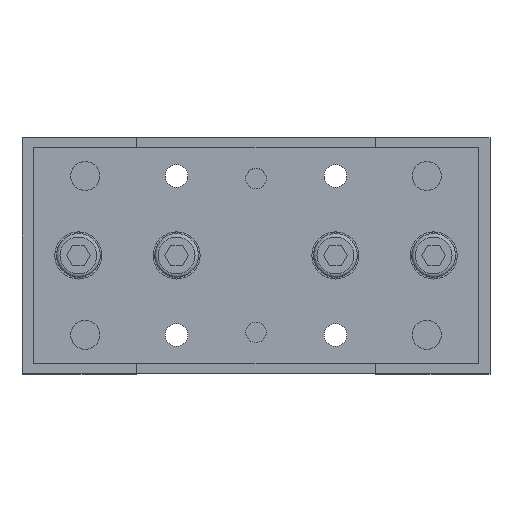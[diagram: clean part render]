
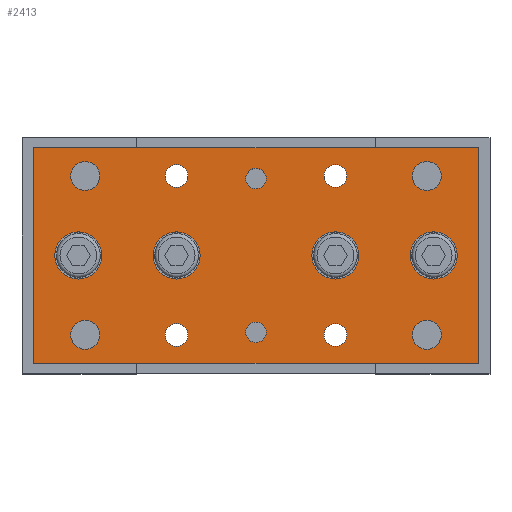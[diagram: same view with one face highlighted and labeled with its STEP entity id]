
A CAD part, top view. The second image highlights one B-rep face of the part: STEP entity #2413.
In plain terms, the highlighted planar face has unit normal (0, 0, 1) as drawn and (-1, 0, 0) by its records, which use the part's own axes.
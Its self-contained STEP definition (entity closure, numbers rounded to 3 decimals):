
#188=LINE('',#4514,#336);
#192=LINE('',#4523,#340);
#195=LINE('',#4529,#343);
#198=LINE('',#4535,#346);
#336=VECTOR('',#3797,1000.);
#340=VECTOR('',#3803,1000.);
#343=VECTOR('',#3808,1000.);
#346=VECTOR('',#3813,1000.);
#692=ORIENTED_EDGE('',*,*,#1124,.T.);
#693=ORIENTED_EDGE('',*,*,#1125,.T.);
#694=ORIENTED_EDGE('',*,*,#1126,.T.);
#695=ORIENTED_EDGE('',*,*,#1127,.T.);
#696=ORIENTED_EDGE('',*,*,#1128,.T.);
#697=ORIENTED_EDGE('',*,*,#1129,.T.);
#698=ORIENTED_EDGE('',*,*,#1130,.T.);
#699=ORIENTED_EDGE('',*,*,#1131,.T.);
#700=ORIENTED_EDGE('',*,*,#1132,.T.);
#701=ORIENTED_EDGE('',*,*,#1133,.T.);
#702=ORIENTED_EDGE('',*,*,#1134,.T.);
#703=ORIENTED_EDGE('',*,*,#1135,.T.);
#704=ORIENTED_EDGE('',*,*,#1136,.T.);
#705=ORIENTED_EDGE('',*,*,#1137,.T.);
#706=ORIENTED_EDGE('',*,*,#1101,.F.);
#707=ORIENTED_EDGE('',*,*,#1111,.F.);
#708=ORIENTED_EDGE('',*,*,#1108,.F.);
#709=ORIENTED_EDGE('',*,*,#1105,.F.);
#1101=EDGE_CURVE('',#1380,#1381,#188,.T.);
#1105=EDGE_CURVE('',#1381,#1384,#192,.T.);
#1108=EDGE_CURVE('',#1384,#1386,#195,.T.);
#1111=EDGE_CURVE('',#1386,#1380,#198,.T.);
#1124=EDGE_CURVE('',#1399,#1399,#1578,.T.);
#1125=EDGE_CURVE('',#1400,#1400,#1579,.T.);
#1126=EDGE_CURVE('',#1401,#1401,#1580,.T.);
#1127=EDGE_CURVE('',#1402,#1402,#1581,.T.);
#1128=EDGE_CURVE('',#1403,#1403,#1582,.T.);
#1129=EDGE_CURVE('',#1404,#1404,#1583,.T.);
#1130=EDGE_CURVE('',#1405,#1405,#1584,.T.);
#1131=EDGE_CURVE('',#1406,#1406,#1585,.T.);
#1132=EDGE_CURVE('',#1407,#1407,#1586,.T.);
#1133=EDGE_CURVE('',#1408,#1408,#1587,.T.);
#1134=EDGE_CURVE('',#1409,#1409,#1588,.T.);
#1135=EDGE_CURVE('',#1410,#1410,#1589,.T.);
#1136=EDGE_CURVE('',#1411,#1411,#1590,.T.);
#1137=EDGE_CURVE('',#1412,#1412,#1591,.T.);
#1380=VERTEX_POINT('',#4515);
#1381=VERTEX_POINT('',#4516);
#1384=VERTEX_POINT('',#4524);
#1386=VERTEX_POINT('',#4530);
#1399=VERTEX_POINT('',#4562);
#1400=VERTEX_POINT('',#4564);
#1401=VERTEX_POINT('',#4566);
#1402=VERTEX_POINT('',#4568);
#1403=VERTEX_POINT('',#4570);
#1404=VERTEX_POINT('',#4572);
#1405=VERTEX_POINT('',#4574);
#1406=VERTEX_POINT('',#4576);
#1407=VERTEX_POINT('',#4578);
#1408=VERTEX_POINT('',#4580);
#1409=VERTEX_POINT('',#4582);
#1410=VERTEX_POINT('',#4584);
#1411=VERTEX_POINT('',#4586);
#1412=VERTEX_POINT('',#4588);
#1578=CIRCLE('',#3322,6.9);
#1579=CIRCLE('',#3323,6.9);
#1580=CIRCLE('',#3324,6.9);
#1581=CIRCLE('',#3325,6.9);
#1582=CIRCLE('',#3326,4.25);
#1583=CIRCLE('',#3327,4.25);
#1584=CIRCLE('',#3328,4.25);
#1585=CIRCLE('',#3329,4.25);
#1586=CIRCLE('',#3330,3.);
#1587=CIRCLE('',#3331,3.);
#1588=CIRCLE('',#3332,3.324);
#1589=CIRCLE('',#3333,3.324);
#1590=CIRCLE('',#3334,3.324);
#1591=CIRCLE('',#3335,3.324);
#1787=EDGE_LOOP('',(#692));
#1788=EDGE_LOOP('',(#693));
#1789=EDGE_LOOP('',(#694));
#1790=EDGE_LOOP('',(#695));
#1791=EDGE_LOOP('',(#696));
#1792=EDGE_LOOP('',(#697));
#1793=EDGE_LOOP('',(#698));
#1794=EDGE_LOOP('',(#699));
#1795=EDGE_LOOP('',(#700));
#1796=EDGE_LOOP('',(#701));
#1797=EDGE_LOOP('',(#702));
#1798=EDGE_LOOP('',(#703));
#1799=EDGE_LOOP('',(#704));
#1800=EDGE_LOOP('',(#705));
#1801=EDGE_LOOP('',(#706,#707,#708,#709));
#2111=FACE_BOUND('',#1787,.T.);
#2112=FACE_BOUND('',#1788,.T.);
#2113=FACE_BOUND('',#1789,.T.);
#2114=FACE_BOUND('',#1790,.T.);
#2115=FACE_BOUND('',#1791,.T.);
#2116=FACE_BOUND('',#1792,.T.);
#2117=FACE_BOUND('',#1793,.T.);
#2118=FACE_BOUND('',#1794,.T.);
#2119=FACE_BOUND('',#1795,.T.);
#2120=FACE_BOUND('',#1796,.T.);
#2121=FACE_BOUND('',#1797,.T.);
#2122=FACE_BOUND('',#1798,.T.);
#2123=FACE_BOUND('',#1799,.T.);
#2124=FACE_BOUND('',#1800,.T.);
#2125=FACE_BOUND('',#1801,.T.);
#2283=PLANE('',#3321);
#2413=ADVANCED_FACE('',(#2111,#2112,#2113,#2114,#2115,#2116,#2117,#2118,
#2119,#2120,#2121,#2122,#2123,#2124,#2125),#2283,.F.);
#3321=AXIS2_PLACEMENT_3D('',#4560,#3839,#3840);
#3322=AXIS2_PLACEMENT_3D('',#4561,#3841,#3842);
#3323=AXIS2_PLACEMENT_3D('',#4563,#3843,#3844);
#3324=AXIS2_PLACEMENT_3D('',#4565,#3845,#3846);
#3325=AXIS2_PLACEMENT_3D('',#4567,#3847,#3848);
#3326=AXIS2_PLACEMENT_3D('',#4569,#3849,#3850);
#3327=AXIS2_PLACEMENT_3D('',#4571,#3851,#3852);
#3328=AXIS2_PLACEMENT_3D('',#4573,#3853,#3854);
#3329=AXIS2_PLACEMENT_3D('',#4575,#3855,#3856);
#3330=AXIS2_PLACEMENT_3D('',#4577,#3857,#3858);
#3331=AXIS2_PLACEMENT_3D('',#4579,#3859,#3860);
#3332=AXIS2_PLACEMENT_3D('',#4581,#3861,#3862);
#3333=AXIS2_PLACEMENT_3D('',#4583,#3863,#3864);
#3334=AXIS2_PLACEMENT_3D('',#4585,#3865,#3866);
#3335=AXIS2_PLACEMENT_3D('',#4587,#3867,#3868);
#3797=DIRECTION('',(0.,-1.,0.));
#3803=DIRECTION('',(0.,0.,-1.));
#3808=DIRECTION('',(0.,1.,0.));
#3813=DIRECTION('',(0.,0.,1.));
#3839=DIRECTION('',(1.,0.,0.));
#3840=DIRECTION('',(0.,0.,-1.));
#3841=DIRECTION('',(1.,0.,0.));
#3842=DIRECTION('',(0.,0.,-1.));
#3843=DIRECTION('',(1.,0.,0.));
#3844=DIRECTION('',(0.,0.,-1.));
#3845=DIRECTION('',(1.,0.,0.));
#3846=DIRECTION('',(0.,0.,-1.));
#3847=DIRECTION('',(1.,0.,0.));
#3848=DIRECTION('',(0.,0.,-1.));
#3849=DIRECTION('',(1.,0.,0.));
#3850=DIRECTION('',(0.,0.,-1.));
#3851=DIRECTION('',(1.,0.,0.));
#3852=DIRECTION('',(0.,0.,-1.));
#3853=DIRECTION('',(1.,0.,0.));
#3854=DIRECTION('',(0.,0.,-1.));
#3855=DIRECTION('',(1.,0.,0.));
#3856=DIRECTION('',(0.,0.,-1.));
#3857=DIRECTION('',(1.,0.,0.));
#3858=DIRECTION('',(0.,0.,-1.));
#3859=DIRECTION('',(1.,0.,0.));
#3860=DIRECTION('',(0.,0.,-1.));
#3861=DIRECTION('',(1.,0.,0.));
#3862=DIRECTION('',(0.,0.,-1.));
#3863=DIRECTION('',(1.,0.,0.));
#3864=DIRECTION('',(0.,0.,-1.));
#3865=DIRECTION('',(1.,0.,0.));
#3866=DIRECTION('',(0.,0.,-1.));
#3867=DIRECTION('',(1.,0.,0.));
#3868=DIRECTION('',(0.,0.,-1.));
#4514=CARTESIAN_POINT('',(0.,31.5,65.));
#4515=CARTESIAN_POINT('',(0.,31.5,65.));
#4516=CARTESIAN_POINT('',(0.,-31.5,65.));
#4523=CARTESIAN_POINT('',(0.,-31.5,65.));
#4524=CARTESIAN_POINT('',(0.,-31.5,-65.));
#4529=CARTESIAN_POINT('',(0.,-31.5,-65.));
#4530=CARTESIAN_POINT('',(0.,31.5,-65.));
#4535=CARTESIAN_POINT('',(0.,31.5,-65.));
#4560=CARTESIAN_POINT('',(0.,0.,0.));
#4561=CARTESIAN_POINT('',(0.,0.,23.25));
#4562=CARTESIAN_POINT('',(0.,0.,16.35));
#4563=CARTESIAN_POINT('',(0.,0.,-23.25));
#4564=CARTESIAN_POINT('',(0.,0.,-30.15));
#4565=CARTESIAN_POINT('',(0.,0.,52.));
#4566=CARTESIAN_POINT('',(0.,0.,45.1));
#4567=CARTESIAN_POINT('',(0.,0.,-52.));
#4568=CARTESIAN_POINT('',(0.,0.,-58.9));
#4569=CARTESIAN_POINT('',(0.,23.25,-50.));
#4570=CARTESIAN_POINT('',(0.,23.25,-54.25));
#4571=CARTESIAN_POINT('',(0.,-23.25,50.));
#4572=CARTESIAN_POINT('',(0.,-23.25,45.75));
#4573=CARTESIAN_POINT('',(0.,-23.25,-50.));
#4574=CARTESIAN_POINT('',(0.,-23.25,-54.25));
#4575=CARTESIAN_POINT('',(0.,23.25,50.));
#4576=CARTESIAN_POINT('',(0.,23.25,45.75));
#4577=CARTESIAN_POINT('',(0.,-22.5,0.));
#4578=CARTESIAN_POINT('',(0.,-22.5,-3.));
#4579=CARTESIAN_POINT('',(0.,22.5,0.));
#4580=CARTESIAN_POINT('',(0.,22.5,-3.));
#4581=CARTESIAN_POINT('',(0.,23.25,-23.25));
#4582=CARTESIAN_POINT('',(0.,23.25,-26.574));
#4583=CARTESIAN_POINT('',(0.,-23.25,23.25));
#4584=CARTESIAN_POINT('',(0.,-23.25,19.927));
#4585=CARTESIAN_POINT('',(0.,-23.25,-23.25));
#4586=CARTESIAN_POINT('',(0.,-23.25,-26.574));
#4587=CARTESIAN_POINT('',(0.,23.25,23.25));
#4588=CARTESIAN_POINT('',(0.,23.25,19.927));
